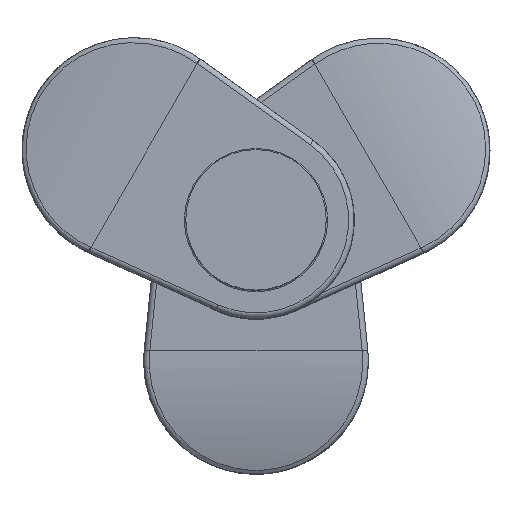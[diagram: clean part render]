
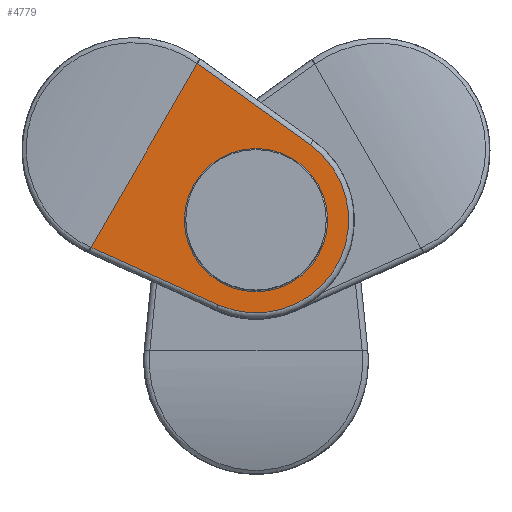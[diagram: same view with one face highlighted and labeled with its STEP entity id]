
A CAD part, top view. The second image highlights one B-rep face of the part: STEP entity #4779.
In plain terms, the highlighted planar face has unit normal (0, 0, 1).
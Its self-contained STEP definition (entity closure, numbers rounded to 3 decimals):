
#220 = AXIS2_PLACEMENT_3D ( 'NONE', #6650, #8166, #8884 ) ;
#299 = AXIS2_PLACEMENT_3D ( 'NONE', #5249, #6531, #2410 ) ;
#367 = LINE ( 'NONE', #8209, #691 ) ;
#381 = CARTESIAN_POINT ( 'NONE',  ( -16.195, 35.449, 46.31 ) ) ;
#447 = LINE ( 'NONE', #7744, #3158 ) ;
#467 = ORIENTED_EDGE ( 'NONE', *, *, #8540, .T. ) ;
#629 = VERTEX_POINT ( 'NONE', #6418 ) ;
#691 = VECTOR ( 'NONE', #6021, 1000. ) ;
#702 = FACE_BOUND ( 'NONE', #9125, .T. ) ;
#936 = CARTESIAN_POINT ( 'NONE',  ( -17.22, 25.291, 46.31 ) ) ;
#1458 = FACE_OUTER_BOUND ( 'NONE', #8712, .T. ) ;
#1836 = VERTEX_POINT ( 'NONE', #381 ) ;
#1859 = CARTESIAN_POINT ( 'NONE',  ( 16.195, 91.551, 46.31 ) ) ;
#2172 = EDGE_CURVE ( 'NONE', #1836, #2176, #9066, .T. ) ;
#2176 = VERTEX_POINT ( 'NONE', #1859 ) ;
#2410 = DIRECTION ( 'NONE',  ( -0.5, -0.866, 0. ) ) ;
#2848 = VERTEX_POINT ( 'NONE', #4719 ) ;
#2906 = EDGE_CURVE ( 'NONE', #4405, #2848, #367, .T. ) ;
#3123 = DIRECTION ( 'NONE',  ( 0.912, -0.411, 0. ) ) ;
#3158 = VECTOR ( 'NONE', #3533, 1000. ) ;
#3533 = DIRECTION ( 'NONE',  ( -0.812, 0.584, 0. ) ) ;
#3637 = VERTEX_POINT ( 'NONE', #936 ) ;
#3689 = AXIS2_PLACEMENT_3D ( 'NONE', #4418, #6657, #5866 ) ;
#4196 = ORIENTED_EDGE ( 'NONE', *, *, #2906, .F. ) ;
#4275 = DIRECTION ( 'NONE',  ( 0., 0., 1. ) ) ;
#4405 = VERTEX_POINT ( 'NONE', #4564 ) ;
#4418 = CARTESIAN_POINT ( 'NONE',  ( 0., 63.5, 46.31 ) ) ;
#4472 = LINE ( 'NONE', #4550, #5032 ) ;
#4550 = CARTESIAN_POINT ( 'NONE',  ( -17.22, 25.291, 46.31 ) ) ;
#4564 = CARTESIAN_POINT ( 'NONE',  ( -74.604, 51.154, 46.31 ) ) ;
#4719 = CARTESIAN_POINT ( 'NONE',  ( -26.61, 134.282, 46.31 ) ) ;
#4779 = ADVANCED_FACE ( 'NONE', ( #702, #1458 ), #8505, .T. ) ;
#5032 = VECTOR ( 'NONE', #3123, 1000. ) ;
#5080 = ORIENTED_EDGE ( 'NONE', *, *, #8638, .T. ) ;
#5249 = CARTESIAN_POINT ( 'NONE',  ( 0., 63.5, 46.31 ) ) ;
#5406 = ORIENTED_EDGE ( 'NONE', *, *, #8337, .T. ) ;
#5786 = DIRECTION ( 'NONE',  ( -0.5, -0.866, 0. ) ) ;
#5866 = DIRECTION ( 'NONE',  ( -0.5, -0.866, 0. ) ) ;
#5911 = AXIS2_PLACEMENT_3D ( 'NONE', #7901, #4275, #5786 ) ;
#6021 = DIRECTION ( 'NONE',  ( 0.5, 0.866, 0. ) ) ;
#6418 = CARTESIAN_POINT ( 'NONE',  ( 24.479, 97.518, 46.31 ) ) ;
#6531 = DIRECTION ( 'NONE',  ( 0., 0., 1. ) ) ;
#6650 = CARTESIAN_POINT ( 'NONE',  ( 0., 63.5, 46.31 ) ) ;
#6657 = DIRECTION ( 'NONE',  ( 0., 0., -1. ) ) ;
#7024 = ORIENTED_EDGE ( 'NONE', *, *, #7589, .T. ) ;
#7199 = ORIENTED_EDGE ( 'NONE', *, *, #2172, .T. ) ;
#7452 = CIRCLE ( 'NONE', #3689, 32.39 ) ;
#7589 = EDGE_CURVE ( 'NONE', #3637, #629, #8236, .T. ) ;
#7744 = CARTESIAN_POINT ( 'NONE',  ( -26.804, 134.422, 46.31 ) ) ;
#7901 = CARTESIAN_POINT ( 'NONE',  ( 0., 63.5, 46.31 ) ) ;
#8166 = DIRECTION ( 'NONE',  ( 0., 0., -1. ) ) ;
#8209 = CARTESIAN_POINT ( 'NONE',  ( -25.207, 136.712, 46.31 ) ) ;
#8236 = CIRCLE ( 'NONE', #299, 41.91 ) ;
#8337 = EDGE_CURVE ( 'NONE', #4405, #3637, #4472, .T. ) ;
#8505 = PLANE ( 'NONE',  #5911 ) ;
#8540 = EDGE_CURVE ( 'NONE', #629, #2848, #447, .T. ) ;
#8638 = EDGE_CURVE ( 'NONE', #2176, #1836, #7452, .T. ) ;
#8712 = EDGE_LOOP ( 'NONE', ( #7024, #467, #4196, #5406 ) ) ;
#8884 = DIRECTION ( 'NONE',  ( -0.5, -0.866, 0. ) ) ;
#9066 = CIRCLE ( 'NONE', #220, 32.39 ) ;
#9125 = EDGE_LOOP ( 'NONE', ( #7199, #5080 ) ) ;
